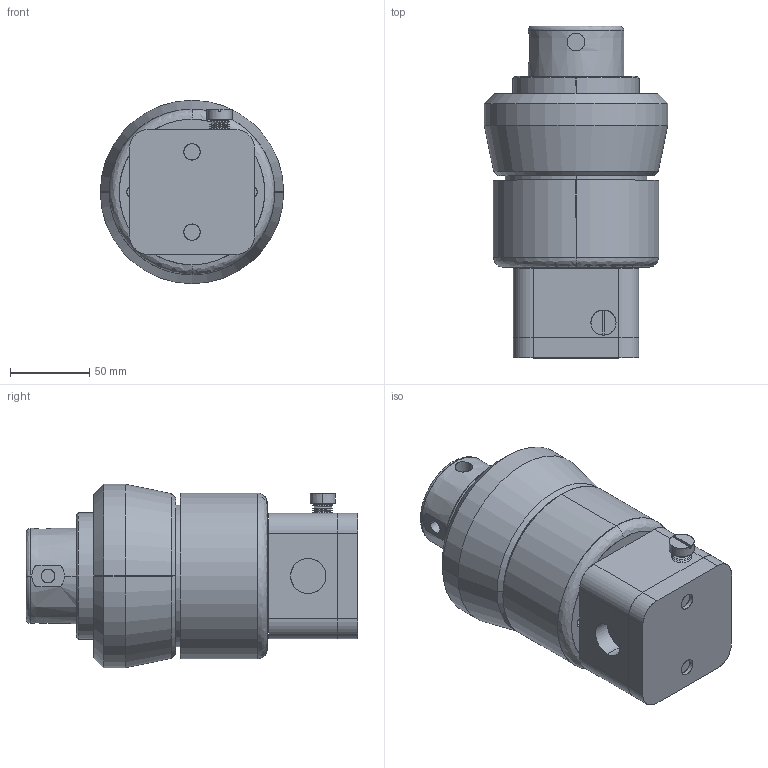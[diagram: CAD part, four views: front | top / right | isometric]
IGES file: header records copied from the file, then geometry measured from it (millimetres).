
Start section: SolidWorks IGES file using analytic representation for surfaces
Global section: file name: \\server\Users\Karen.Bodily\My Documents\defeatured\DBH030 INLINE.IGS; native system: SolidWorks 2012; preprocessor: SolidWorks 2012; author: karen.bodily; date: 130424.093205; units: inch
Bounding box: 116.08 x 209.96 x 116.08 mm (x, y, z)
Surface area: 173088 mm2 (no closed solid volume)
Topology: 0 solids, 0 shells, 422 faces, 5365 edges, 5363 vertices
Faces by surface type: revolution 334, bspline 88
